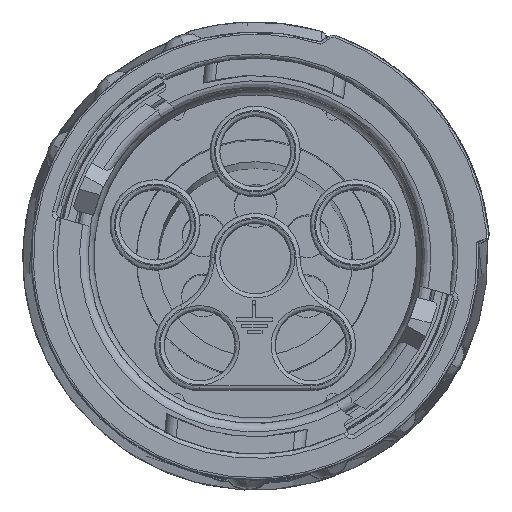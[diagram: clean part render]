
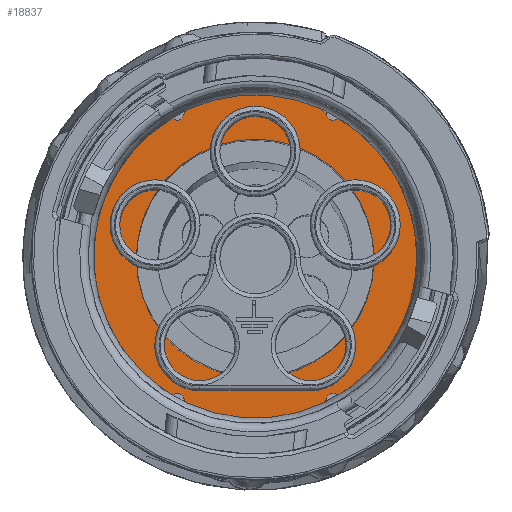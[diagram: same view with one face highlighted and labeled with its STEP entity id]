
A CAD part, top view. The second image highlights one B-rep face of the part: STEP entity #18837.
In plain terms, the highlighted planar face has unit normal (0, 0, -1).
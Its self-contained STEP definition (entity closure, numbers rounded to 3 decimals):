
#1509 = AXIS2_PLACEMENT_3D ( 'NONE', #12400, #28204, #30676 ) ;
#2930 = VERTEX_POINT ( 'NONE', #15009 ) ;
#3378 = CIRCLE ( 'NONE', #36704, 7.692 ) ;
#6180 = CARTESIAN_POINT ( 'NONE',  ( -3.171, -2.769, -45.788 ) ) ;
#9121 = FACE_BOUND ( 'NONE', #13876, .T. ) ;
#11632 = DIRECTION ( 'NONE',  ( -1., 0., 0. ) ) ;
#12247 = DIRECTION ( 'NONE',  ( 0., 0., -1. ) ) ;
#12392 = ORIENTED_EDGE ( 'NONE', *, *, #36506, .F. ) ;
#12400 = CARTESIAN_POINT ( 'NONE',  ( 2.379, -2.769, -45.788 ) ) ;
#13876 = EDGE_LOOP ( 'NONE', ( #12392 ) ) ;
#15009 = CARTESIAN_POINT ( 'NONE',  ( -5.313, -2.769, -45.788 ) ) ;
#18384 = CARTESIAN_POINT ( 'NONE',  ( 2.379, -2.769, -45.788 ) ) ;
#18837 = ADVANCED_FACE ( 'NONE', ( #21844, #9121 ), #40529, .T. ) ;
#21844 = FACE_OUTER_BOUND ( 'NONE', #29849, .T. ) ;
#25056 = VERTEX_POINT ( 'NONE', #6180 ) ;
#27245 = EDGE_CURVE ( 'NONE', #2930, #2930, #3378, .T. ) ;
#28204 = DIRECTION ( 'NONE',  ( 0., 0., -1. ) ) ;
#29656 = CIRCLE ( 'NONE', #35558, 5.55 ) ;
#29849 = EDGE_LOOP ( 'NONE', ( #31484 ) ) ;
#30676 = DIRECTION ( 'NONE',  ( -1., 0., 0. ) ) ;
#30707 = DIRECTION ( 'NONE',  ( 0., 0., -1. ) ) ;
#30736 = CARTESIAN_POINT ( 'NONE',  ( 2.379, -2.769, -45.788 ) ) ;
#31484 = ORIENTED_EDGE ( 'NONE', *, *, #27245, .T. ) ;
#35558 = AXIS2_PLACEMENT_3D ( 'NONE', #18384, #30707, #40152 ) ;
#36506 = EDGE_CURVE ( 'NONE', #25056, #25056, #29656, .T. ) ;
#36704 = AXIS2_PLACEMENT_3D ( 'NONE', #30736, #12247, #11632 ) ;
#40152 = DIRECTION ( 'NONE',  ( -1., 0., 0. ) ) ;
#40529 = PLANE ( 'NONE',  #1509 ) ;
